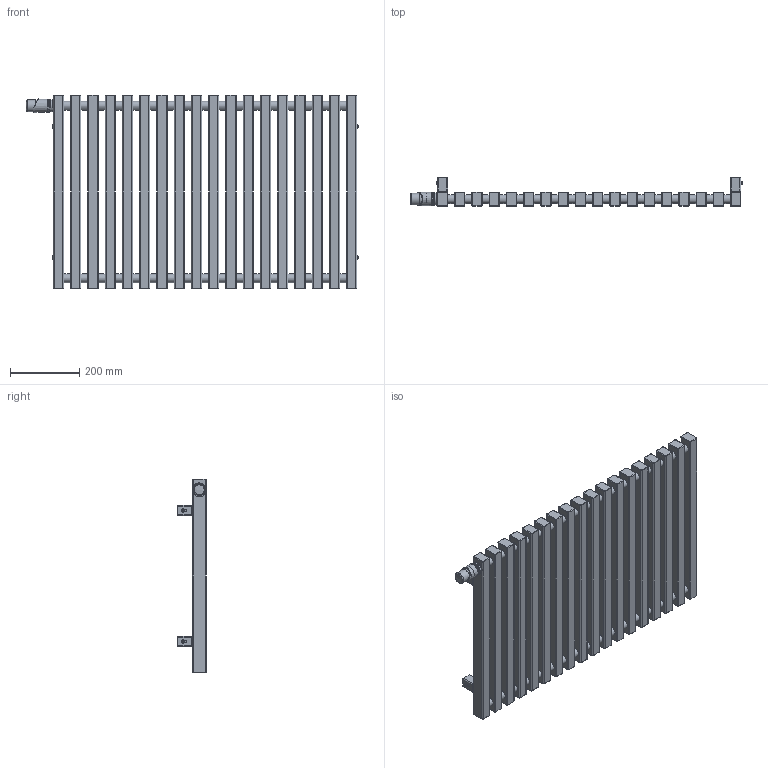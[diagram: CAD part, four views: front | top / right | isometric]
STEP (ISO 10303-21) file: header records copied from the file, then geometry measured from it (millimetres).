
FILE_DESCRIPTION((''),'2;1');
FILE_NAME('Z:\R\G\P\RGP029 - Grzejnik Triga ( ZET)\Work\Inventor\Triga v1.1\Marketing\AutoCad 3D\G-TR-XX-MK-XX-56-88-VL.stp','2012-07-26T13:23:17',('DawPi'),(''),'Autodesk Inventor 2012','Autodesk Inventor 2012','');
FILE_SCHEMA(('AUTOMOTIVE_DESIGN { 1 0 10303 214 1 1 1 1 }'));
Length unit declared in the file: millimetre
Products named in the file (4): G-TR-XX-MK-XX-56-88-VL; MMT42; A40300A
Assembly tree (6 placements, depth 2):
  G-TR-XX-MK-XX-56-88-VL
    G-TR-XX-MK-XX-56-88-VL
    MMT42  x4
    A40300A
Bounding box: 962.26 x 82 x 560 mm (x, y, z)
Volume: 12565752.5 mm3; surface area: 1472792.9 mm2
Topology: 6 solids, 7 shells, 769 faces, 1702 edges, 1023 vertices
Faces by surface type: cylinder 329, plane 255, bspline 145, cone 25, torus 14, sphere 1
Full cylindrical faces by diameter (mm): 4 x1, 4.134 x4, 4.509 x4, 5 x1, 10 x5, 11.445 x1, 12 x4, 18.631 x2, 25 x34, 26.211 x1, 28 x1, 30 x1, 31 x1, 33.8 x1, 34 x2, 35 x3, 36 x4, 38 x3
Entity records: 28108 total; most frequent: CARTESIAN_POINT 14378, DIRECTION 3038, ORIENTED_EDGE 2580, EDGE_CURVE 1290, AXIS2_PLACEMENT_3D 1253, EDGE_LOOP 816, VERTEX_POINT 808, CIRCLE 752
